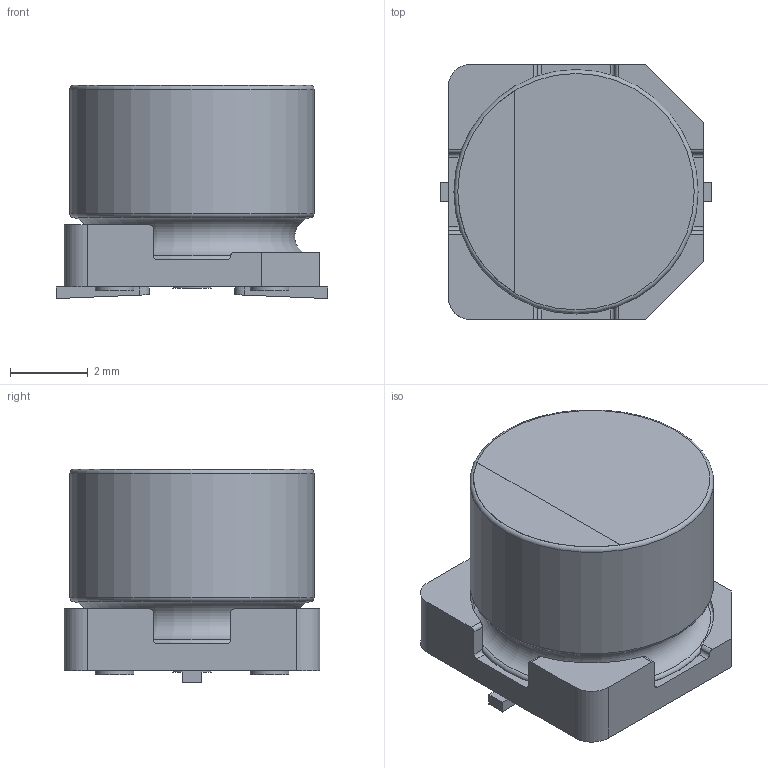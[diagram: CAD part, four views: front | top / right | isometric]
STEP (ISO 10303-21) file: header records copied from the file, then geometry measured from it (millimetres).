
FILE_DESCRIPTION(/* description */ (''),/* implementation_level */ '2;1');
FILE_NAME(/* name */ '6.3x5.5_Chip.stp',/* time_stamp */ '2017-09-04T17:00:54+09:00',/* author */ (''),/* organization */ (''),/* preprocessor_version */ 'ST-DEVELOPER v16',/* originating_system */ 'SIEMENS PLM Software NX 11.0',/* authorisation */ '');
FILE_SCHEMA (('AUTOMOTIVE_DESIGN { 1 0 10303 214 3 1 1 1 }'));
Length unit declared in the file: millimetre
Products named in the file (1): 6.3x5.5_Chip_0
Bounding box: 7 x 6.6 x 5.5 mm (x, y, z)
Volume: 168 mm3; surface area: 293.2 mm2
Topology: 5 solids, 5 shells, 74 faces, 175 edges, 116 vertices
Faces by surface type: plane 36, cylinder 34, torus 4
Full cylindrical faces by diameter (mm): 1 x5, 6.3 x2
Entity records: 2304 total; most frequent: CARTESIAN_POINT 485, DIRECTION 350, ORIENTED_EDGE 322, EDGE_CURVE 161, AXIS2_PLACEMENT_3D 130, VERTEX_POINT 113, EDGE_LOOP 90, LINE 90
